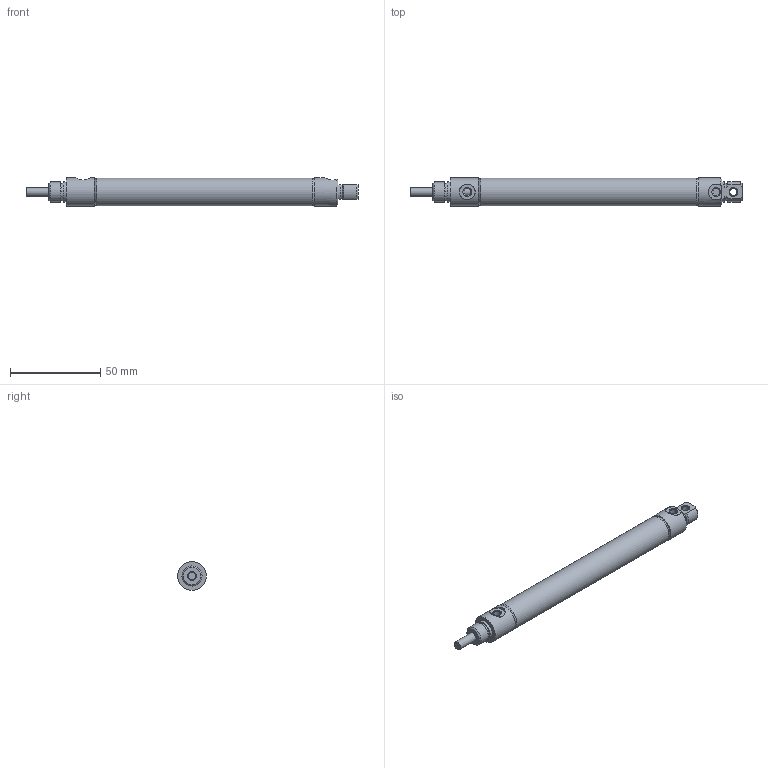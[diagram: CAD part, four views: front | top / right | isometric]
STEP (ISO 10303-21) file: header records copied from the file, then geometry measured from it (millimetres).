
FILE_DESCRIPTION( ( 'STEP AP214' ), '1' );
FILE_NAME( 'p:/temp/worker_424/temp/exporttempdir_4936_289_AauYU/format_0/0563D02-04A.stp', '2020-05-07T13:13:11', ( 'License CC BY-ND 4.0' ), ( 'CADENAS' ), ' ', 'PARTsolutions', ' ' );
FILE_SCHEMA( ( 'AUTOMOTIVE_DESIGN { 1 0 10303 214 1 1 1 1 }' ) );
Length unit declared in the file: inch
Products named in the file (3): 0563D02-04A; _0563D02-04A-0000A00A0b; _0563D02-04A-0000A00A0r
Assembly tree (2 placements, depth 2):
  0563D02-04A
    _0563D02-04A-0000A00A0b
    _0563D02-04A-0000A00A0r
Bounding box: 184.18 x 15.88 x 15.88 mm (x, y, z)
Volume: 15546.6 mm3; surface area: 18033.7 mm2
Topology: 2 solids, 2 shells, 58 faces, 120 edges, 77 vertices
Faces by surface type: cylinder 22, plane 22, cone 14
Full cylindrical faces by diameter (mm): 3.967 x2, 3.988 x1, 4.775 x2, 4.826 x1, 8.738 x1, 9.601 x1, 11.1 x2, 14.287 x2, 15.392 x1, 15.875 x2
Entity records: 2087 total; most frequent: CARTESIAN_POINT 422, DIRECTION 253, ORIENTED_EDGE 186, AXIS2_PLACEMENT_3D 115, EDGE_LOOP 97, EDGE_CURVE 93, VERTEX_POINT 74, FACE_OUTER_BOUND 73
